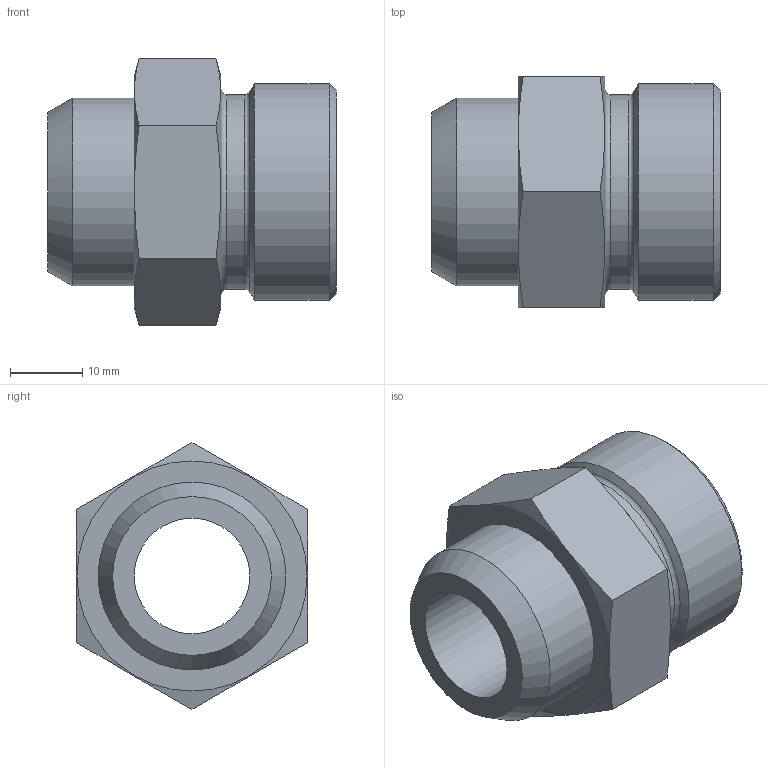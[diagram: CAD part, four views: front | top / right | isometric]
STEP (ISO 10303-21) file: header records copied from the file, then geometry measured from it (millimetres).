
FILE_DESCRIPTION( ( 'Unknown' ), '1' );
FILE_NAME( 'C:/Users/p.nanko/Desktop/3D SR/XASV20S.stp', 'Unknown', ( 'Peter Nanko' ), ( 'Armaturen Arndt' ), 'PSStep 14.0', 'Solid Edge ST4', ' ' );
FILE_SCHEMA( ( 'AUTOMOTIVE_DESIGN { 1 0 10303 214 1 1 1 1 }' ) );
Length unit declared in the file: millimetre
Products named in the file (1): 1
Bounding box: 40 x 32 x 36.95 mm (x, y, z)
Volume: 17865.1 mm3; surface area: 7175.1 mm2
Topology: 1 solids, 1 shells, 24 faces, 49 edges, 30 vertices
Faces by surface type: plane 11, cone 6, cylinder 5, torus 2
Full cylindrical faces by diameter (mm): 16 x1, 20 x1, 26 x1, 27 x1, 30 x1
Entity records: 840 total; most frequent: CARTESIAN_POINT 189, DIRECTION 90, ORIENTED_EDGE 70, AXIS2_PLACEMENT_3D 42, EDGE_LOOP 42, EDGE_CURVE 35, FACE_OUTER_BOUND 31, VERTEX_POINT 29
